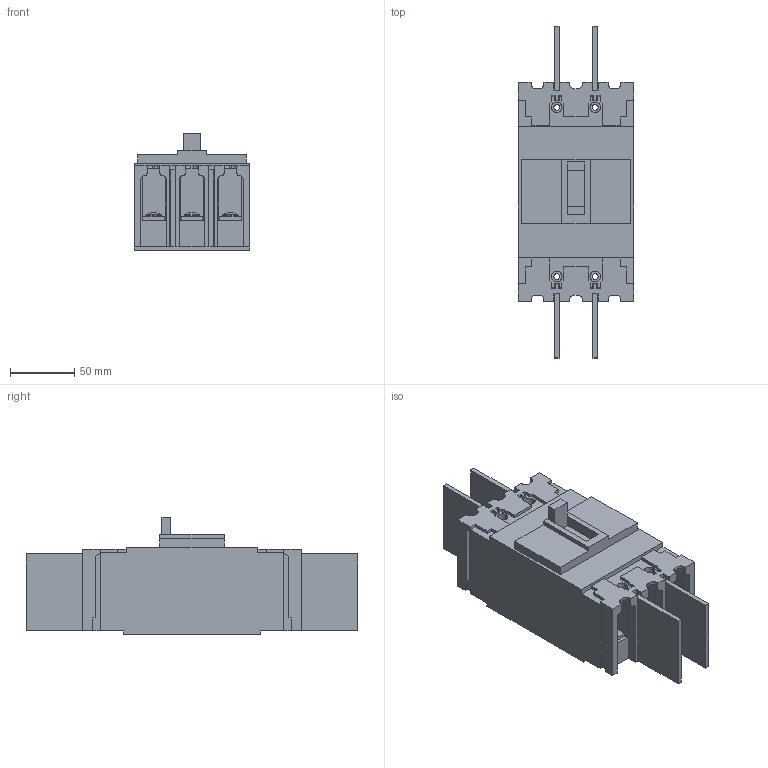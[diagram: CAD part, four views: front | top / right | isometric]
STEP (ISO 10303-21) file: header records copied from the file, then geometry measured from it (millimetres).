
FILE_DESCRIPTION( ( '' ), '1' );
FILE_NAME( 'E:/D&C電子外形図_3D/step/BW125JAGU-3P.stp', '2012-10-19T05:30:15', ( '' ), ( '' ), ' ', ' ', ' ' );
FILE_SCHEMA( ( 'automotive_design' ) );
Length unit declared in the file: millimetre
Products named in the file (14): 1; 2; 3; 4; 5; 6; 7; 8; 9; 10; 11; 12; 13; 14
Bounding box: 90 x 259 x 91.5 mm (x, y, z)
Volume: 940559.5 mm3; surface area: 148588.4 mm2
Topology: 14 solids, 14 shells, 452 faces, 1190 edges, 790 vertices
Faces by surface type: plane 340, cylinder 88, sphere 12, torus 12
Entity records: 27713 total; most frequent: STYLED_ITEM 2446, PRESENTATION_STYLE_ASSIGNMENT 2446, CARTESIAN_POINT 2446, COLOUR_RGB 2446, ORIENTED_EDGE 2380, DIRECTION 2346, EDGE_CURVE 1190, CURVE_STYLE 1190
